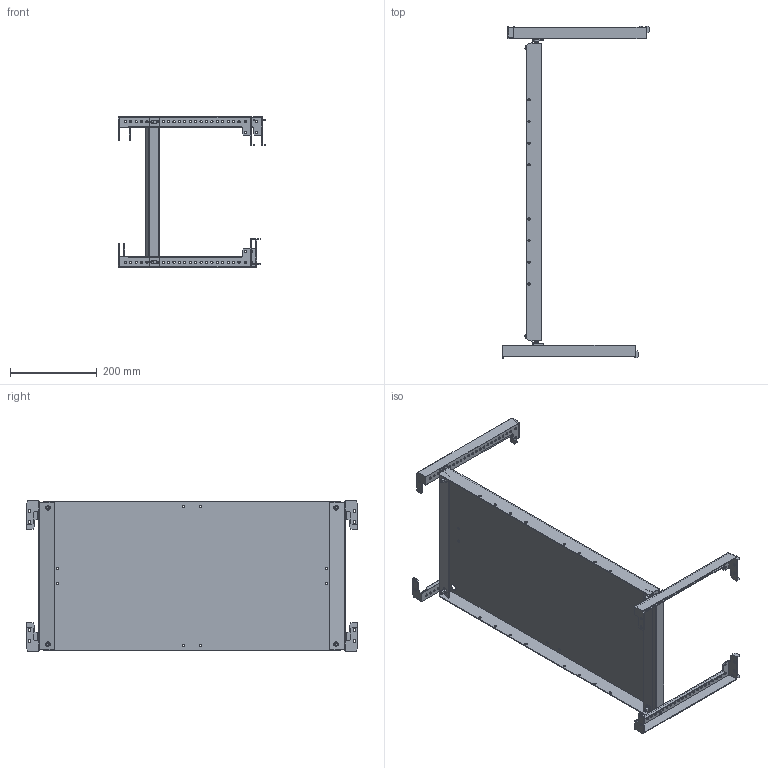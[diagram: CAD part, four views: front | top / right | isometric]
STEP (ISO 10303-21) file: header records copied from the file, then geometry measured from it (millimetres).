
FILE_DESCRIPTION (( 'STEP AP214' ), '1' );
FILE_NAME ('FO-00-MPU-035-080 Ïàíåëü ìîíòàæíàÿ óíèâåðñàëüíàÿ 350?800 ìì.STEP', '2025-07-16T07:07:55', ( '' ), ( '' ), 'SwSTEP 2.0', 'SolidWorks 2023', '' );
FILE_SCHEMA (( 'AUTOMOTIVE_DESIGN' ));
Length unit declared in the file: millimetre
Products named in the file (5): Траверса горизонтальнаяD; FO-00-MPU-035-080 Панель монтажная универсальная 350×800 мм; Панель монтажная универсальная 350×800; Траверса горизонтальная; Винты DIN 912 4xM6x20 350x800
Assembly tree (6 placements, depth 2):
  FO-00-MPU-035-080 Панель монтажная универсальная 350×800 мм
    Панель монтажная универсальная 350×800
    Винты DIN 912 4xM6x20 350x800
    Траверса горизонтальная  x2
    Траверса горизонтальнаяD  x2
Bounding box: 339.5 x 766 x 347 mm (x, y, z)
Volume: 890857.8 mm3; surface area: 910122.6 mm2
Topology: 9 solids, 13 shells, 1010 faces, 2744 edges, 1808 vertices
Faces by surface type: cylinder 468, plane 454, cone 56, torus 32
Entity records: 26087 total; most frequent: CARTESIAN_POINT 5387, DIRECTION 4400, ORIENTED_EDGE 4156, EDGE_CURVE 2078, AXIS2_PLACEMENT_3D 1609, VERTEX_POINT 1364, VECTOR 1182, LINE 1182
